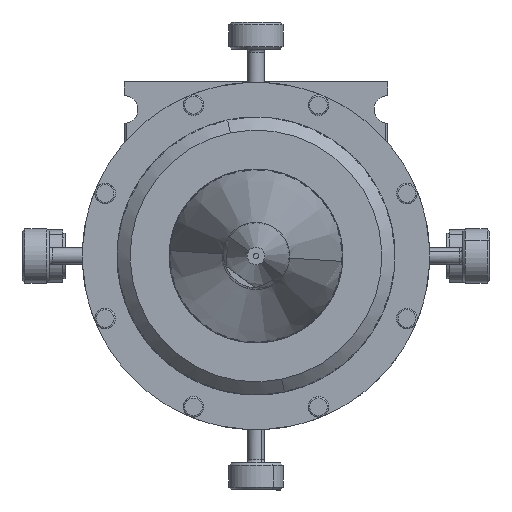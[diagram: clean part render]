
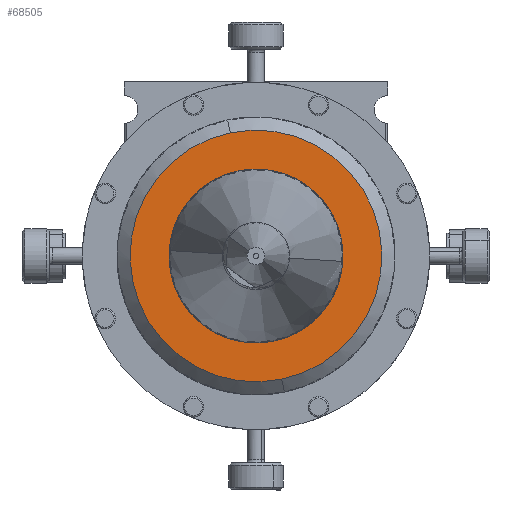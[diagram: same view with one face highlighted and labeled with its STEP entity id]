
A CAD part, front view. The second image highlights one B-rep face of the part: STEP entity #68505.
In plain terms, the highlighted planar face has unit normal (0, -1, 0).
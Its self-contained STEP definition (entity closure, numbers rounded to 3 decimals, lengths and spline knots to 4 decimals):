
#1363 = EDGE_CURVE ( 'Defeatured_0_974+Defeatured_0_975+Defeatured_0_975+Defeatured_0_975', #11354, #47426, #22603, .T. ) ;
#1942 = DIRECTION ( 'NONE',  ( 1., 0., 0. ) ) ;
#3277 = EDGE_LOOP ( 'NONE', ( #72561, #30557 ) ) ;
#3697 = ORIENTED_EDGE ( 'NONE', *, *, #11173, .T. ) ;
#8099 = CARTESIAN_POINT ( 'NONE',  ( 0., 3.4398, 0. ) ) ;
#8218 = VERTEX_POINT ( 'NONE', #11879 ) ;
#11091 = CIRCLE ( 'NONE', #67321, 0.625 ) ;
#11164 = DIRECTION ( 'NONE',  ( 0.204, 0., -0.979 ) ) ;
#11173 = EDGE_CURVE ( 'Defeatured_0_974+Defeatured_0_975+Defeatured_0_975+Defeatured_0_975', #47426, #11354, #25929, .T. ) ;
#11354 = VERTEX_POINT ( 'NONE', #17957 ) ;
#11879 = CARTESIAN_POINT ( 'NONE',  ( 0.6173, 3.4398, 0.0976 ) ) ;
#16762 = CARTESIAN_POINT ( 'NONE',  ( 0., 3.4398, 0. ) ) ;
#17351 = AXIS2_PLACEMENT_3D ( 'NONE', #17849, #62454, #57282 ) ;
#17849 = CARTESIAN_POINT ( 'NONE',  ( 0., 3.4398, 0. ) ) ;
#17957 = CARTESIAN_POINT ( 'NONE',  ( -0.1851, 3.4398, 0.8871 ) ) ;
#17987 = AXIS2_PLACEMENT_3D ( 'NONE', #16762, #61838, #50782 ) ;
#22603 = CIRCLE ( 'NONE', #17351, 0.9063 ) ;
#24854 = DIRECTION ( 'NONE',  ( 1., 0., 0. ) ) ;
#25929 = CIRCLE ( 'NONE', #17987, 0.9063 ) ;
#26197 = CIRCLE ( 'NONE', #53451, 0.625 ) ;
#26490 = CARTESIAN_POINT ( 'NONE',  ( 0.1851, 3.4398, -0.8871 ) ) ;
#27189 = FACE_OUTER_BOUND ( 'NONE', #63119, .T. ) ;
#30038 = DIRECTION ( 'NONE',  ( 0., -1., 0. ) ) ;
#30557 = ORIENTED_EDGE ( 'NONE', *, *, #50828, .F. ) ;
#39781 = CARTESIAN_POINT ( 'NONE',  ( 0.8871, 3.4398, 0.1851 ) ) ;
#40365 = AXIS2_PLACEMENT_3D ( 'NONE', #39781, #51118, #11164 ) ;
#40627 = EDGE_CURVE ( 'Defeatured_0_1903+Defeatured_0_974+Defeatured_0_974+Defeatured_0_974', #61160, #8218, #26197, .T. ) ;
#46824 = CARTESIAN_POINT ( 'NONE',  ( 0., 3.4398, 0. ) ) ;
#47426 = VERTEX_POINT ( 'NONE', #26490 ) ;
#50782 = DIRECTION ( 'NONE',  ( 0.204, 0., -0.979 ) ) ;
#50828 = EDGE_CURVE ( 'Defeatured_0_1903+Defeatured_0_974+Defeatured_0_974+Defeatured_0_974', #8218, #61160, #11091, .T. ) ;
#51118 = DIRECTION ( 'NONE',  ( 0., -1., 0. ) ) ;
#52981 = DIRECTION ( 'NONE',  ( 0., -1., 0. ) ) ;
#53451 = AXIS2_PLACEMENT_3D ( 'NONE', #8099, #52981, #24854 ) ;
#57282 = DIRECTION ( 'NONE',  ( 0.204, 0., -0.979 ) ) ;
#57690 = ORIENTED_EDGE ( 'NONE', *, *, #1363, .T. ) ;
#58004 = FACE_BOUND ( 'NONE', #3277, .T. ) ;
#60121 = CARTESIAN_POINT ( 'NONE',  ( -0.6173, 3.4398, -0.0976 ) ) ;
#61160 = VERTEX_POINT ( 'NONE', #60121 ) ;
#61838 = DIRECTION ( 'NONE',  ( 0., -1., 0. ) ) ;
#62454 = DIRECTION ( 'NONE',  ( 0., -1., 0. ) ) ;
#63119 = EDGE_LOOP ( 'NONE', ( #57690, #3697 ) ) ;
#67321 = AXIS2_PLACEMENT_3D ( 'NONE', #46824, #30038, #1942 ) ;
#67564 = PLANE ( 'NONE',  #40365 ) ;
#68505 = ADVANCED_FACE ( 'Defeatured_0_974', ( #58004, #27189 ), #67564, .T. ) ;
#72561 = ORIENTED_EDGE ( 'NONE', *, *, #40627, .F. ) ;
